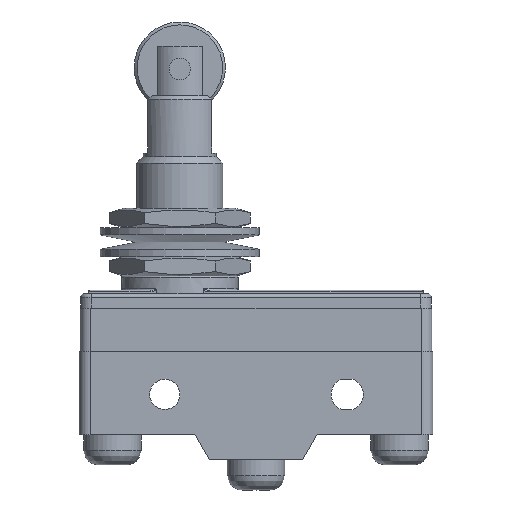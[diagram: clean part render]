
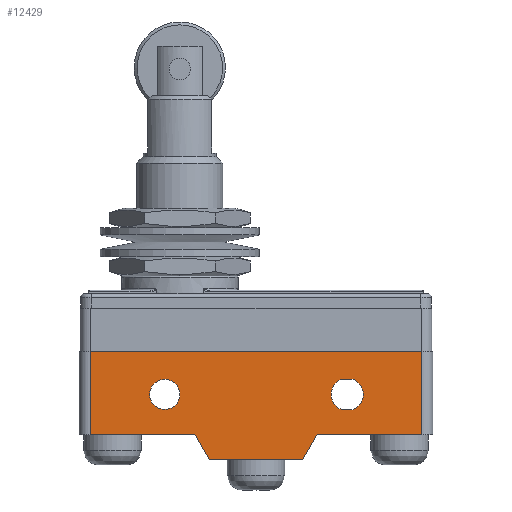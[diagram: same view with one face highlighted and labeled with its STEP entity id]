
A CAD part, left-side view. The second image highlights one B-rep face of the part: STEP entity #12429.
In plain terms, the highlighted planar face has unit normal (-1, 0, 0).
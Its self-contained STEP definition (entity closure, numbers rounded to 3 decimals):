
#1406=FACE_BOUND('',#2573,.T.);
#1407=FACE_BOUND('',#2574,.T.);
#1487=PLANE('',#13147);
#1868=FACE_OUTER_BOUND('',#2572,.T.);
#2572=EDGE_LOOP('',(#8840,#8841,#8842,#8843,#8844,#8845,#8846,#8847));
#2573=EDGE_LOOP('',(#8848));
#2574=EDGE_LOOP('',(#8849,#8850,#8851,#8852));
#3345=LINE('',#15950,#4454);
#3371=LINE('',#16096,#4480);
#3390=LINE('',#16256,#4499);
#3392=LINE('',#16260,#4501);
#3393=LINE('',#16261,#4502);
#3394=LINE('',#16263,#4503);
#3395=LINE('',#16265,#4504);
#3396=LINE('',#16266,#4505);
#3397=LINE('',#16271,#4506);
#3398=LINE('',#16275,#4507);
#4454=VECTOR('',#13709,14.6);
#4480=VECTOR('',#13755,14.6);
#4499=VECTOR('',#13778,11.6);
#4501=VECTOR('',#13782,46.2);
#4502=VECTOR('',#13783,11.6);
#4503=VECTOR('',#13784,4.031);
#4504=VECTOR('',#13785,13.);
#4505=VECTOR('',#13786,4.031);
#4506=VECTOR('',#13789,1.616);
#4507=VECTOR('',#13792,1.616);
#5569=CIRCLE('',#13148,2.1);
#5570=CIRCLE('',#13149,2.25);
#5571=CIRCLE('',#13150,2.25);
#5687=VERTEX_POINT('',#15947);
#5688=VERTEX_POINT('',#15949);
#5733=VERTEX_POINT('',#16093);
#5734=VERTEX_POINT('',#16095);
#5777=VERTEX_POINT('',#16254);
#5778=VERTEX_POINT('',#16259);
#5779=VERTEX_POINT('',#16262);
#5780=VERTEX_POINT('',#16264);
#5781=VERTEX_POINT('',#16267);
#5782=VERTEX_POINT('',#16269);
#5783=VERTEX_POINT('',#16270);
#5784=VERTEX_POINT('',#16272);
#5785=VERTEX_POINT('',#16274);
#6913=EDGE_CURVE('',#5688,#5687,#3345,.T.);
#6962=EDGE_CURVE('',#5734,#5733,#3371,.T.);
#7006=EDGE_CURVE('',#5777,#5733,#3390,.T.);
#7008=EDGE_CURVE('',#5777,#5778,#3392,.T.);
#7009=EDGE_CURVE('',#5688,#5778,#3393,.T.);
#7010=EDGE_CURVE('',#5687,#5779,#3394,.T.);
#7011=EDGE_CURVE('',#5779,#5780,#3395,.T.);
#7012=EDGE_CURVE('',#5780,#5734,#3396,.T.);
#7013=EDGE_CURVE('',#5781,#5781,#5569,.T.);
#7014=EDGE_CURVE('',#5782,#5783,#3397,.T.);
#7015=EDGE_CURVE('',#5783,#5784,#5570,.T.);
#7016=EDGE_CURVE('',#5784,#5785,#3398,.T.);
#7017=EDGE_CURVE('',#5785,#5782,#5571,.T.);
#8840=ORIENTED_EDGE('',*,*,#7006,.F.);
#8841=ORIENTED_EDGE('',*,*,#7008,.T.);
#8842=ORIENTED_EDGE('',*,*,#7009,.F.);
#8843=ORIENTED_EDGE('',*,*,#6913,.T.);
#8844=ORIENTED_EDGE('',*,*,#7010,.T.);
#8845=ORIENTED_EDGE('',*,*,#7011,.T.);
#8846=ORIENTED_EDGE('',*,*,#7012,.T.);
#8847=ORIENTED_EDGE('',*,*,#6962,.T.);
#8848=ORIENTED_EDGE('',*,*,#7013,.T.);
#8849=ORIENTED_EDGE('',*,*,#7014,.T.);
#8850=ORIENTED_EDGE('',*,*,#7015,.T.);
#8851=ORIENTED_EDGE('',*,*,#7016,.T.);
#8852=ORIENTED_EDGE('',*,*,#7017,.T.);
#12429=ADVANCED_FACE('',(#1868,#1406,#1407),#1487,.T.);
#13147=AXIS2_PLACEMENT_3D('',#16258,#13780,#13781);
#13148=AXIS2_PLACEMENT_3D('',#16268,#13787,#13788);
#13149=AXIS2_PLACEMENT_3D('',#16273,#13790,#13791);
#13150=AXIS2_PLACEMENT_3D('',#16276,#13793,#13794);
#13709=DIRECTION('',(0.,-1.,0.));
#13755=DIRECTION('',(0.,-1.,0.));
#13778=DIRECTION('',(0.,0.,-1.));
#13780=DIRECTION('center_axis',(-1.,0.,0.));
#13781=DIRECTION('ref_axis',(0.,0.,1.));
#13782=DIRECTION('',(0.,1.,0.));
#13783=DIRECTION('',(0.,0.,1.));
#13784=DIRECTION('',(0.,-0.496,-0.868));
#13785=DIRECTION('',(0.,-1.,0.));
#13786=DIRECTION('',(0.,-0.496,0.868));
#13787=DIRECTION('center_axis',(1.,0.,0.));
#13788=DIRECTION('ref_axis',(0.,0.,1.));
#13789=DIRECTION('',(0.,-1.,0.));
#13790=DIRECTION('center_axis',(1.,0.,0.));
#13791=DIRECTION('ref_axis',(0.,-0.359,0.933));
#13792=DIRECTION('',(0.,1.,0.));
#13793=DIRECTION('center_axis',(1.,0.,0.));
#13794=DIRECTION('ref_axis',(0.,0.359,-0.933));
#15947=CARTESIAN_POINT('',(-8.75,8.5,3.5));
#15949=CARTESIAN_POINT('',(-8.75,23.1,3.5));
#15950=CARTESIAN_POINT('',(-8.75,4.25,3.5));
#16093=CARTESIAN_POINT('',(-8.75,-23.1,3.5));
#16095=CARTESIAN_POINT('',(-8.75,-8.5,3.5));
#16096=CARTESIAN_POINT('',(-8.75,-12.3,3.5));
#16254=CARTESIAN_POINT('',(-8.75,-23.1,15.1));
#16256=CARTESIAN_POINT('',(-8.75,-23.1,11.325));
#16258=CARTESIAN_POINT('Origin',(-8.75,0.,7.55));
#16259=CARTESIAN_POINT('',(-8.75,23.1,15.1));
#16260=CARTESIAN_POINT('',(-8.75,-24.6,15.1));
#16261=CARTESIAN_POINT('',(-8.75,23.1,3.775));
#16262=CARTESIAN_POINT('',(-8.75,6.5,0.));
#16263=CARTESIAN_POINT('',(-8.75,7.326,1.446));
#16264=CARTESIAN_POINT('',(-8.75,-6.5,0.));
#16265=CARTESIAN_POINT('',(-8.75,24.6,0.));
#16266=CARTESIAN_POINT('',(-8.75,-8.326,3.196));
#16267=CARTESIAN_POINT('',(-8.75,12.7,7.));
#16268=CARTESIAN_POINT('Origin',(-8.75,12.7,9.1));
#16269=CARTESIAN_POINT('',(-8.75,-11.892,11.2));
#16270=CARTESIAN_POINT('',(-8.75,-13.508,11.2));
#16271=CARTESIAN_POINT('',(-8.75,-6.754,11.2));
#16272=CARTESIAN_POINT('',(-8.75,-13.508,7.));
#16273=CARTESIAN_POINT('Origin',(-8.75,-12.7,9.1));
#16274=CARTESIAN_POINT('',(-8.75,-11.892,7.));
#16275=CARTESIAN_POINT('',(-8.75,-5.946,7.));
#16276=CARTESIAN_POINT('Origin',(-8.75,-12.7,9.1));
